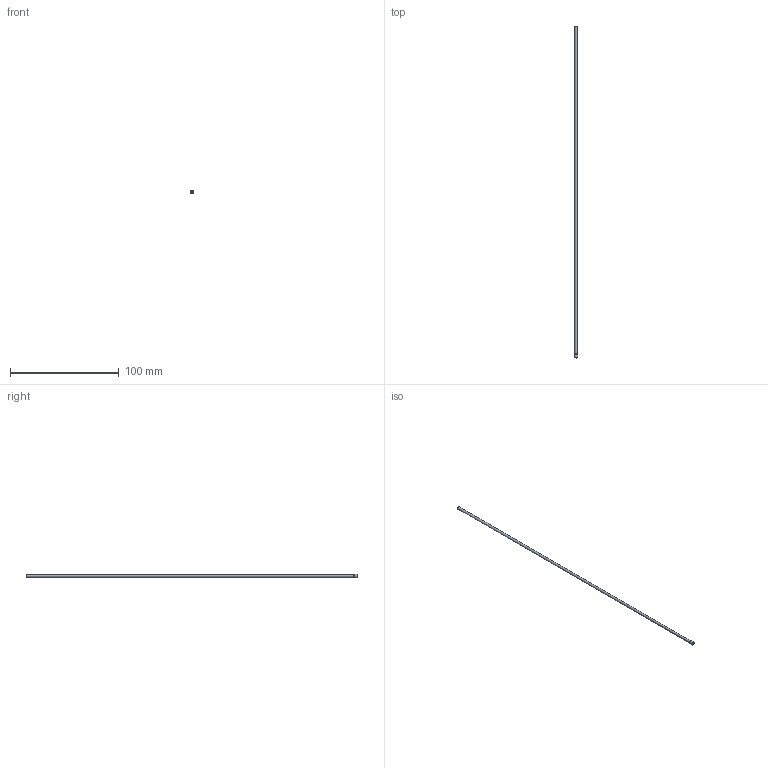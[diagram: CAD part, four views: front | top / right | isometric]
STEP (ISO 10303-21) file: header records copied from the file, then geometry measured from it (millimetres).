
FILE_DESCRIPTION(/* description */ (''),/* implementation_level */ '2;1');
FILE_NAME(/* name */ 'C:/Users/drich/Desktop/HF093T-12 v1.step',/* time_stamp */ '2019-12-30T13:26:08-06:00',/* author */ (''),/* organization */ (''),/* preprocessor_version */ 'ST-DEVELOPER v18',/* originating_system */ 'Autodesk Translation Framework v8.12.0.6',/* authorisation */ '');
FILE_SCHEMA (('AUTOMOTIVE_DESIGN { 1 0 10303 214 3 1 1 }'));
Length unit declared in the file: inch
Products named in the file (1): HF093T-12
Bounding box: 3.23 x 304.8 x 3.23 mm (x, y, z)
Volume: 371.2 mm3; surface area: 4054.8 mm2
Topology: 1 solids, 1 shells, 11 faces, 27 edges, 20 vertices
Faces by surface type: cylinder 4, plane 4, torus 2, cone 1
Full cylindrical faces by diameter (mm): 1.93 x1, 2.286 x1, 3.096 x1, 3.226 x1
Entity records: 390 total; most frequent: DIRECTION 73, CARTESIAN_POINT 59, ORIENTED_EDGE 54, AXIS2_PLACEMENT_3D 34, EDGE_CURVE 27, CIRCLE 22, VERTEX_POINT 20, EDGE_LOOP 15
